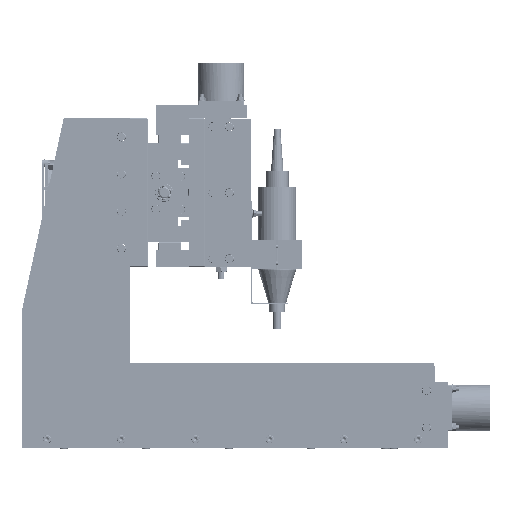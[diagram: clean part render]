
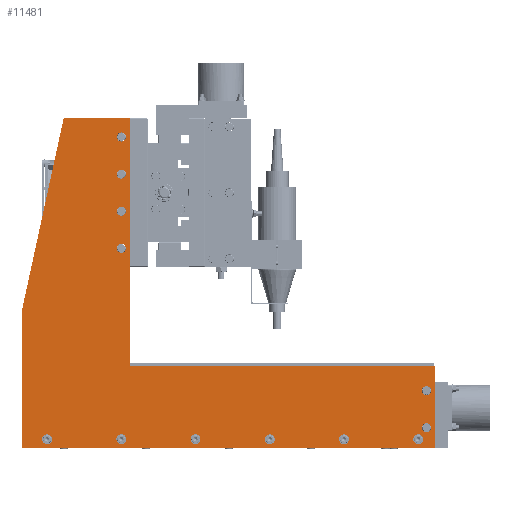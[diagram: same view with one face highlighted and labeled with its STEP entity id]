
A CAD part, left-side view. The second image highlights one B-rep face of the part: STEP entity #11481.
In plain terms, the highlighted planar face has unit normal (-1, 0, 0) as drawn and (0, 0, -1) by its records, which use the part's own axes.
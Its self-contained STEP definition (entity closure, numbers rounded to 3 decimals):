
#8907=CARTESIAN_POINT('',(-245.5,-130.0,0.0));
#8908=VERTEX_POINT('',#8907);
#8909=CARTESIAN_POINT('',(-240.0,-130.0,0.0));
#8910=DIRECTION('',(0.0,0.0,1.0));
#8911=DIRECTION('',(-1.0,0.0,0.0));
#8912=AXIS2_PLACEMENT_3D('',#8909,#8910,#8911);
#8913=CIRCLE('',#8912,5.5);
#8914=EDGE_CURVE('',#8908,#8908,#8913,.T.);
#9116=CARTESIAN_POINT('',(-245.5,-175.0,0.0));
#9117=VERTEX_POINT('',#9116);
#9118=CARTESIAN_POINT('',(-240.,-175.0,0.0));
#9119=DIRECTION('',(0.0,0.0,1.0));
#9120=DIRECTION('',(-1.0,0.0,0.0));
#9121=AXIS2_PLACEMENT_3D('',#9118,#9119,#9120);
#9122=CIRCLE('',#9121,5.5);
#9123=EDGE_CURVE('',#9117,#9117,#9122,.T.);
#10400=CARTESIAN_POINT('',(124.5,42.5,0.0));
#10401=VERTEX_POINT('',#10400);
#10402=CARTESIAN_POINT('',(130.,42.5,0.0));
#10403=DIRECTION('',(0.0,0.0,1.0));
#10404=DIRECTION('',(1.0,0.0,0.0));
#10405=AXIS2_PLACEMENT_3D('',#10402,#10403,#10404);
#10406=CIRCLE('',#10405,5.5);
#10407=EDGE_CURVE('',#10401,#10401,#10406,.T.);
#10455=CARTESIAN_POINT('',(124.5,87.5,0.0));
#10456=VERTEX_POINT('',#10455);
#10457=CARTESIAN_POINT('',(130.,87.5,0.0));
#10458=DIRECTION('',(0.0,0.0,1.0));
#10459=DIRECTION('',(1.0,0.0,0.0));
#10460=AXIS2_PLACEMENT_3D('',#10457,#10458,#10459);
#10461=CIRCLE('',#10460,5.5);
#10462=EDGE_CURVE('',#10456,#10456,#10461,.T.);
#10510=CARTESIAN_POINT('',(124.5,132.5,0.0));
#10511=VERTEX_POINT('',#10510);
#10512=CARTESIAN_POINT('',(130.,132.5,0.0));
#10513=DIRECTION('',(0.0,0.0,1.0));
#10514=DIRECTION('',(1.0,0.0,0.0));
#10515=AXIS2_PLACEMENT_3D('',#10512,#10513,#10514);
#10516=CIRCLE('',#10515,5.5);
#10517=EDGE_CURVE('',#10511,#10511,#10516,.T.);
#10565=CARTESIAN_POINT('',(124.5,177.5,0.0));
#10566=VERTEX_POINT('',#10565);
#10567=CARTESIAN_POINT('',(130.,177.5,0.0));
#10568=DIRECTION('',(0.0,0.0,1.0));
#10569=DIRECTION('',(1.0,0.0,0.0));
#10570=AXIS2_PLACEMENT_3D('',#10567,#10568,#10569);
#10571=CIRCLE('',#10570,5.5);
#10572=EDGE_CURVE('',#10566,#10566,#10571,.T.);
#10648=CARTESIAN_POINT('',(214.,-189.,0.0));
#10649=VERTEX_POINT('',#10648);
#10650=CARTESIAN_POINT('',(220.,-189.,0.0));
#10651=DIRECTION('',(0.0,0.0,1.0));
#10652=DIRECTION('',(-1.0,0.0,0.0));
#10653=AXIS2_PLACEMENT_3D('',#10650,#10651,#10652);
#10654=CIRCLE('',#10653,6.);
#10655=EDGE_CURVE('',#10649,#10649,#10654,.T.);
#10758=CARTESIAN_POINT('',(124.,-189.,0.0));
#10759=VERTEX_POINT('',#10758);
#10760=CARTESIAN_POINT('',(130.,-189.,0.0));
#10761=DIRECTION('',(0.0,0.0,1.0));
#10762=DIRECTION('',(-1.0,0.0,0.0));
#10763=AXIS2_PLACEMENT_3D('',#10760,#10761,#10762);
#10764=CIRCLE('',#10763,6.);
#10765=EDGE_CURVE('',#10759,#10759,#10764,.T.);
#10868=CARTESIAN_POINT('',(34.,-189.,0.0));
#10869=VERTEX_POINT('',#10868);
#10870=CARTESIAN_POINT('',(40.,-189.,0.0));
#10871=DIRECTION('',(0.0,0.0,1.0));
#10872=DIRECTION('',(-1.0,0.0,0.0));
#10873=AXIS2_PLACEMENT_3D('',#10870,#10871,#10872);
#10874=CIRCLE('',#10873,6.);
#10875=EDGE_CURVE('',#10869,#10869,#10874,.T.);
#10978=CARTESIAN_POINT('',(-56.,-189.,0.0));
#10979=VERTEX_POINT('',#10978);
#10980=CARTESIAN_POINT('',(-50.,-189.,0.0));
#10981=DIRECTION('',(0.0,0.0,1.0));
#10982=DIRECTION('',(-1.0,0.0,0.0));
#10983=AXIS2_PLACEMENT_3D('',#10980,#10981,#10982);
#10984=CIRCLE('',#10983,6.);
#10985=EDGE_CURVE('',#10979,#10979,#10984,.T.);
#11088=CARTESIAN_POINT('',(-146.,-189.,0.0));
#11089=VERTEX_POINT('',#11088);
#11090=CARTESIAN_POINT('',(-140.,-189.,0.0));
#11091=DIRECTION('',(0.0,0.0,1.0));
#11092=DIRECTION('',(-1.0,0.0,0.0));
#11093=AXIS2_PLACEMENT_3D('',#11090,#11091,#11092);
#11094=CIRCLE('',#11093,6.);
#11095=EDGE_CURVE('',#11089,#11089,#11094,.T.);
#11198=CARTESIAN_POINT('',(-236.,-189.,0.0));
#11199=VERTEX_POINT('',#11198);
#11200=CARTESIAN_POINT('',(-230.,-189.,0.0));
#11201=DIRECTION('',(0.0,0.0,1.0));
#11202=DIRECTION('',(-1.0,0.0,0.0));
#11203=AXIS2_PLACEMENT_3D('',#11200,#11201,#11202);
#11204=CIRCLE('',#11203,6.);
#11205=EDGE_CURVE('',#11199,#11199,#11204,.T.);
#11259=CARTESIAN_POINT('',(-250.0,-100.,0.0));
#11260=VERTEX_POINT('',#11259);
#11261=CARTESIAN_POINT('',(120.0,-100.0,0.0));
#11262=VERTEX_POINT('',#11261);
#11263=CARTESIAN_POINT('',(-250.0,-100.,0.0));
#11264=DIRECTION('',(1.0,0.0,0.0));
#11265=VECTOR('',#11264,370.0);
#11266=LINE('',#11263,#11265);
#11267=EDGE_CURVE('',#11260,#11262,#11266,.T.);
#11299=CARTESIAN_POINT('',(120.,200.,0.0));
#11300=VERTEX_POINT('',#11299);
#11301=CARTESIAN_POINT('',(120.0,-100.0,0.0));
#11302=DIRECTION('',(0.0,1.0,0.0));
#11303=VECTOR('',#11302,300.);
#11304=LINE('',#11301,#11303);
#11305=EDGE_CURVE('',#11262,#11300,#11304,.T.);
#11342=CARTESIAN_POINT('',(200.,200.,0.0));
#11343=VERTEX_POINT('',#11342);
#11344=CARTESIAN_POINT('',(250.,-30.,0.0));
#11345=VERTEX_POINT('',#11344);
#11346=CARTESIAN_POINT('',(200.,200.,0.0));
#11347=DIRECTION('',(0.212,-0.977,0.0));
#11348=VECTOR('',#11347,235.372);
#11349=LINE('',#11346,#11348);
#11350=EDGE_CURVE('',#11343,#11345,#11349,.T.);
#11383=CARTESIAN_POINT('',(-250.,-200.0,0.0));
#11384=VERTEX_POINT('',#11383);
#11385=CARTESIAN_POINT('',(-250.,-200.0,0.0));
#11386=DIRECTION('',(0.0,1.0,0.0));
#11387=VECTOR('',#11386,100.);
#11388=LINE('',#11385,#11387);
#11389=EDGE_CURVE('',#11384,#11260,#11388,.T.);
#11414=CARTESIAN_POINT('',(0.,0.,0.0));
#11415=DIRECTION('',(0.0,0.0,1.0));
#11416=DIRECTION('',(1.0,0.0,0.0));
#11417=AXIS2_PLACEMENT_3D('',#11414,#11415,#11416);
#11418=PLANE('',#11417);
#11419=ORIENTED_EDGE('',*,*,#11267,.T.);
#11420=ORIENTED_EDGE('',*,*,#11305,.T.);
#11421=CARTESIAN_POINT('',(120.,200.,0.0));
#11422=DIRECTION('',(1.0,0.0,0.0));
#11423=VECTOR('',#11422,80.);
#11424=LINE('',#11421,#11423);
#11425=EDGE_CURVE('',#11300,#11343,#11424,.T.);
#11426=ORIENTED_EDGE('',*,*,#11425,.T.);
#11427=ORIENTED_EDGE('',*,*,#11350,.T.);
#11428=CARTESIAN_POINT('',(250.,-200.,0.0));
#11429=VERTEX_POINT('',#11428);
#11430=CARTESIAN_POINT('',(250.,-30.,0.0));
#11431=DIRECTION('',(0.0,-1.0,0.0));
#11432=VECTOR('',#11431,170.);
#11433=LINE('',#11430,#11432);
#11434=EDGE_CURVE('',#11345,#11429,#11433,.T.);
#11435=ORIENTED_EDGE('',*,*,#11434,.T.);
#11436=CARTESIAN_POINT('',(250.,-200.,0.0));
#11437=DIRECTION('',(-1.0,0.0,0.0));
#11438=VECTOR('',#11437,500.0);
#11439=LINE('',#11436,#11438);
#11440=EDGE_CURVE('',#11429,#11384,#11439,.T.);
#11441=ORIENTED_EDGE('',*,*,#11440,.T.);
#11442=ORIENTED_EDGE('',*,*,#11389,.T.);
#11443=EDGE_LOOP('',(#11419,#11420,#11426,#11427,#11435,#11441,#11442));
#11444=FACE_OUTER_BOUND('',#11443,.T.);
#11445=ORIENTED_EDGE('',*,*,#8914,.T.);
#11446=EDGE_LOOP('',(#11445));
#11447=FACE_BOUND('',#11446,.T.);
#11448=ORIENTED_EDGE('',*,*,#9123,.T.);
#11449=EDGE_LOOP('',(#11448));
#11450=FACE_BOUND('',#11449,.T.);
#11451=ORIENTED_EDGE('',*,*,#10407,.T.);
#11452=EDGE_LOOP('',(#11451));
#11453=FACE_BOUND('',#11452,.T.);
#11454=ORIENTED_EDGE('',*,*,#10462,.T.);
#11455=EDGE_LOOP('',(#11454));
#11456=FACE_BOUND('',#11455,.T.);
#11457=ORIENTED_EDGE('',*,*,#10517,.T.);
#11458=EDGE_LOOP('',(#11457));
#11459=FACE_BOUND('',#11458,.T.);
#11460=ORIENTED_EDGE('',*,*,#10572,.T.);
#11461=EDGE_LOOP('',(#11460));
#11462=FACE_BOUND('',#11461,.T.);
#11463=ORIENTED_EDGE('',*,*,#10655,.T.);
#11464=EDGE_LOOP('',(#11463));
#11465=FACE_BOUND('',#11464,.T.);
#11466=ORIENTED_EDGE('',*,*,#10765,.T.);
#11467=EDGE_LOOP('',(#11466));
#11468=FACE_BOUND('',#11467,.T.);
#11469=ORIENTED_EDGE('',*,*,#10875,.T.);
#11470=EDGE_LOOP('',(#11469));
#11471=FACE_BOUND('',#11470,.T.);
#11472=ORIENTED_EDGE('',*,*,#10985,.T.);
#11473=EDGE_LOOP('',(#11472));
#11474=FACE_BOUND('',#11473,.T.);
#11475=ORIENTED_EDGE('',*,*,#11095,.T.);
#11476=EDGE_LOOP('',(#11475));
#11477=FACE_BOUND('',#11476,.T.);
#11478=ORIENTED_EDGE('',*,*,#11205,.T.);
#11479=EDGE_LOOP('',(#11478));
#11480=FACE_BOUND('',#11479,.T.);
#11481=ADVANCED_FACE('',(#11444,#11447,#11450,#11453,#11456,#11459,#11462,#11465,#11468,#11471,#11474,#11477,#11480),#11418,.F.);
